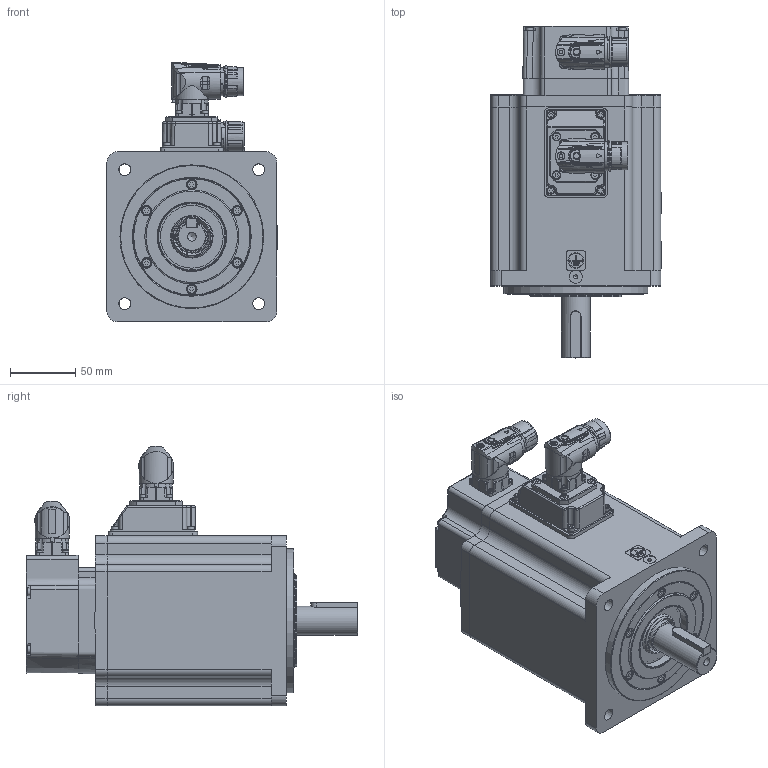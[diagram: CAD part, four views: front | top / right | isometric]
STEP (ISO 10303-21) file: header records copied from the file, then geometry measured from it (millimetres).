
FILE_DESCRIPTION( ( 'Unknown' ), '1' );
FILE_NAME( 'U:/05_Progetto TCE/010-TCE motor drawings/TCE130/Vuoti/TCE130 5H XX 3 A1 0 C2.stp', 'Unknown', ( 'Unknown' ), ( 'Unknown' ), 'PSStep 17.0.49', 'Unknown', ' ' );
FILE_SCHEMA( ( 'AUTOMOTIVE_DESIGN { 1 0 10303 214 1 1 1 1 }' ) );
Length unit declared in the file: millimetre
Products named in the file (13): 005123001528
Bounding box: 130.3 x 254 x 198.5 mm (x, y, z)
Volume: 1110731.3 mm3; surface area: 342098.3 mm2
Topology: 14 solids, 84 shells, 2954 faces, 7354 edges, 4740 vertices
Faces by surface type: plane 1425, cylinder 727, cone 287, bspline 231, torus 165, sphere 81, extrusion 38
Full cylindrical faces by diameter (mm): 0.5 x1, 1 x21, 1.2 x17, 1.4 x4, 2 x4, 2.013 x4, 2.2 x2, 2.459 x23, 2.5 x8, 2.6 x4, 2.8 x4, 3 x28, 3.242 x24, 3.5 x8, 4 x15, 4.134 x16, 4.4 x4, 4.5 x12, 4.7 x4, 5 x8, 5.5 x19, 5.8 x1, 5.9 x2, 6.647 x2, 6.8 x1, 7 x10, 8 x12, 8.5 x8, 10 x1, 10.5 x8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
Entity records: 121553 total; most frequent: CARTESIAN_POINT 36489, DIRECTION 13014, ORIENTED_EDGE 12654, EDGE_CURVE 6327, AXIS2_PLACEMENT_3D 4888, VERTEX_POINT 4489, EDGE_LOOP 3942, FACE_OUTER_BOUND 3425
